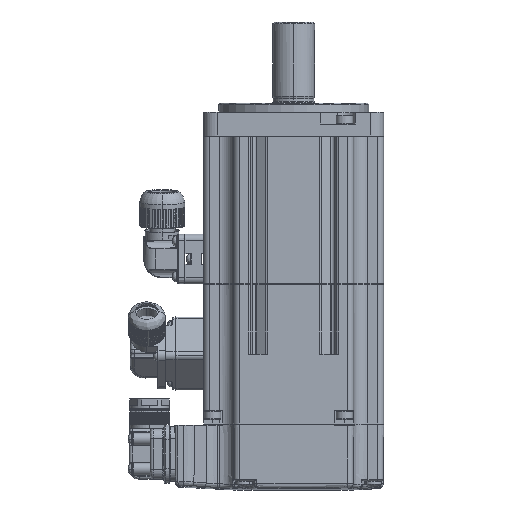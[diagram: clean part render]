
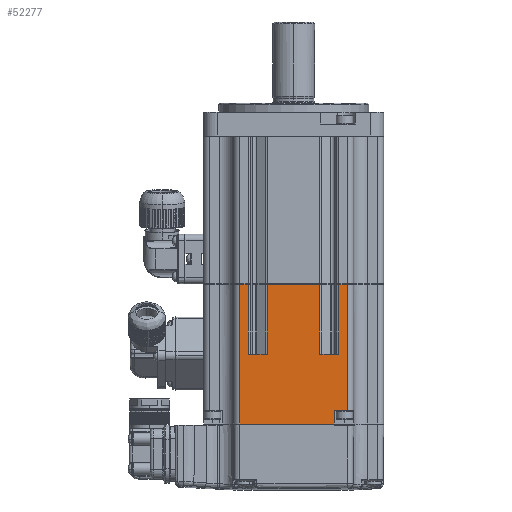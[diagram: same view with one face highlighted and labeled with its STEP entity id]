
A CAD part, front view. The second image highlights one B-rep face of the part: STEP entity #52277.
In plain terms, the highlighted planar face has unit normal (0, -1, 0).
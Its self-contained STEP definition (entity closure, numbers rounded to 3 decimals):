
#1121 = CARTESIAN_POINT ( 'NONE',  ( 0., -60., -99.5 ) ) ;
#5282 = VECTOR ( 'NONE', #67131, 1000. ) ;
#6009 = VECTOR ( 'NONE', #94617, 1000. ) ;
#9811 = VERTEX_POINT ( 'NONE', #28811 ) ;
#10400 = DIRECTION ( 'NONE',  ( 0., 0., 1. ) ) ;
#10500 = VERTEX_POINT ( 'NONE', #99790 ) ;
#11309 = CARTESIAN_POINT ( 'NONE',  ( 0., -60., -57.5 ) ) ;
#11530 = VERTEX_POINT ( 'NONE', #15528 ) ;
#12794 = ORIENTED_EDGE ( 'NONE', *, *, #71505, .T. ) ;
#13851 = DIRECTION ( 'NONE',  ( -1., 0., 0. ) ) ;
#14414 = CARTESIAN_POINT ( 'NONE',  ( -14.939, -60., -57.5 ) ) ;
#15206 = VERTEX_POINT ( 'NONE', #35851 ) ;
#15356 = EDGE_CURVE ( 'NONE', #11530, #83140, #84667, .T. ) ;
#15475 = VECTOR ( 'NONE', #39725, 1000. ) ;
#15528 = CARTESIAN_POINT ( 'NONE',  ( -12., -60., -99.5 ) ) ;
#15986 = EDGE_CURVE ( 'NONE', #41386, #27722, #36681, .T. ) ;
#16156 = LINE ( 'NONE', #26920, #96041 ) ;
#16171 = LINE ( 'NONE', #111912, #6009 ) ;
#18606 = DIRECTION ( 'NONE',  ( -1., 0., 0. ) ) ;
#19662 = CARTESIAN_POINT ( 'NONE',  ( -16.4, -60., -104. ) ) ;
#20411 = CARTESIAN_POINT ( 'NONE',  ( -45.061, -60., -57.5 ) ) ;
#21019 = VERTEX_POINT ( 'NONE', #20411 ) ;
#21680 = VECTOR ( 'NONE', #13851, 1000. ) ;
#22300 = EDGE_CURVE ( 'NONE', #15206, #9811, #113316, .T. ) ;
#24978 = ORIENTED_EDGE ( 'NONE', *, *, #22300, .F. ) ;
#25709 = LINE ( 'NONE', #57429, #21680 ) ;
#25718 = ORIENTED_EDGE ( 'NONE', *, *, #97540, .T. ) ;
#26232 = VECTOR ( 'NONE', #77673, 1000. ) ;
#26478 = LINE ( 'NONE', #58349, #5282 ) ;
#26920 = CARTESIAN_POINT ( 'NONE',  ( -48., -60., -101. ) ) ;
#27722 = VERTEX_POINT ( 'NONE', #75599 ) ;
#28455 = EDGE_CURVE ( 'NONE', #92862, #53676, #36233, .T. ) ;
#28800 = ORIENTED_EDGE ( 'NONE', *, *, #99502, .F. ) ;
#28811 = CARTESIAN_POINT ( 'NONE',  ( -48., -60., -104. ) ) ;
#32230 = ORIENTED_EDGE ( 'NONE', *, *, #15356, .F. ) ;
#33947 = ORIENTED_EDGE ( 'NONE', *, *, #76671, .T. ) ;
#35851 = CARTESIAN_POINT ( 'NONE',  ( -16.4, -60., -104. ) ) ;
#36058 = ORIENTED_EDGE ( 'NONE', *, *, #63503, .T. ) ;
#36233 = LINE ( 'NONE', #60838, #54073 ) ;
#36681 = LINE ( 'NONE', #54514, #105469 ) ;
#37809 = EDGE_LOOP ( 'NONE', ( #55624, #36058, #42484, #40936, #69731, #12794, #83373, #25718, #24978, #28800, #32230, #68911, #112772, #33947 ) ) ;
#38789 = DIRECTION ( 'NONE',  ( -1., 0., 0. ) ) ;
#39725 = DIRECTION ( 'NONE',  ( 0., 0., 1. ) ) ;
#40936 = ORIENTED_EDGE ( 'NONE', *, *, #100909, .T. ) ;
#41386 = VERTEX_POINT ( 'NONE', #42154 ) ;
#41517 = DIRECTION ( 'NONE',  ( 0., 0., -1. ) ) ;
#42050 = DIRECTION ( 'NONE',  ( -1., 0., 0. ) ) ;
#42100 = FACE_OUTER_BOUND ( 'NONE', #37809, .T. ) ;
#42154 = CARTESIAN_POINT ( 'NONE',  ( -21.248, -60., -80.75 ) ) ;
#42185 = CARTESIAN_POINT ( 'NONE',  ( 0., -60., -57.5 ) ) ;
#42484 = ORIENTED_EDGE ( 'NONE', *, *, #61357, .T. ) ;
#43637 = EDGE_CURVE ( 'NONE', #11530, #10500, #101046, .T. ) ;
#46876 = DIRECTION ( 'NONE',  ( 0., 0., 1. ) ) ;
#47122 = DIRECTION ( 'NONE',  ( 0., -1., 0. ) ) ;
#47232 = CARTESIAN_POINT ( 'NONE',  ( 0., -60., -98. ) ) ;
#50169 = PLANE ( 'NONE',  #50246 ) ;
#50246 = AXIS2_PLACEMENT_3D ( 'NONE', #47232, #47122, #46876 ) ;
#52277 = ADVANCED_FACE ( 'NONE', ( #42100 ), #50169, .T. ) ;
#53676 = VERTEX_POINT ( 'NONE', #68004 ) ;
#54073 = VECTOR ( 'NONE', #93093, 1000. ) ;
#54236 = EDGE_CURVE ( 'NONE', #10500, #80916, #73571, .T. ) ;
#54514 = CARTESIAN_POINT ( 'NONE',  ( -21.248, -60., -80.75 ) ) ;
#54605 = DIRECTION ( 'NONE',  ( 1., 0., 0. ) ) ;
#55624 = ORIENTED_EDGE ( 'NONE', *, *, #15986, .F. ) ;
#57271 = CARTESIAN_POINT ( 'NONE',  ( -45.061, -60., -80.75 ) ) ;
#57429 = CARTESIAN_POINT ( 'NONE',  ( 0., -60., -57.5 ) ) ;
#58349 = CARTESIAN_POINT ( 'NONE',  ( -21.248, -60., -57.5 ) ) ;
#59276 = LINE ( 'NONE', #68667, #26232 ) ;
#60838 = CARTESIAN_POINT ( 'NONE',  ( -45.061, -60., -80.75 ) ) ;
#61357 = EDGE_CURVE ( 'NONE', #70651, #97932, #25709, .T. ) ;
#63503 = EDGE_CURVE ( 'NONE', #41386, #70651, #26478, .T. ) ;
#64601 = VECTOR ( 'NONE', #41517, 1000. ) ;
#67131 = DIRECTION ( 'NONE',  ( 0., 0., 1. ) ) ;
#67339 = CARTESIAN_POINT ( 'NONE',  ( -38.752, -60., -97.5 ) ) ;
#68004 = CARTESIAN_POINT ( 'NONE',  ( -38.752, -60., -80.75 ) ) ;
#68667 = CARTESIAN_POINT ( 'NONE',  ( -16.4, -60., -98. ) ) ;
#68911 = ORIENTED_EDGE ( 'NONE', *, *, #43637, .T. ) ;
#69731 = ORIENTED_EDGE ( 'NONE', *, *, #28455, .F. ) ;
#70651 = VERTEX_POINT ( 'NONE', #83331 ) ;
#71505 = EDGE_CURVE ( 'NONE', #92862, #21019, #97062, .T. ) ;
#72883 = VECTOR ( 'NONE', #42050, 1000. ) ;
#73496 = VECTOR ( 'NONE', #18606, 1000. ) ;
#73571 = LINE ( 'NONE', #42185, #72883 ) ;
#75599 = CARTESIAN_POINT ( 'NONE',  ( -14.939, -60., -80.75 ) ) ;
#76671 = EDGE_CURVE ( 'NONE', #80916, #27722, #16171, .T. ) ;
#77673 = DIRECTION ( 'NONE',  ( 0., 0., -1. ) ) ;
#79471 = DIRECTION ( 'NONE',  ( 0., 0., -1. ) ) ;
#80916 = VERTEX_POINT ( 'NONE', #14414 ) ;
#81924 = DIRECTION ( 'NONE',  ( -1., 0., 0. ) ) ;
#83140 = VERTEX_POINT ( 'NONE', #85787 ) ;
#83331 = CARTESIAN_POINT ( 'NONE',  ( -21.248, -60., -57.5 ) ) ;
#83373 = ORIENTED_EDGE ( 'NONE', *, *, #101781, .T. ) ;
#84667 = LINE ( 'NONE', #1121, #85594 ) ;
#85594 = VECTOR ( 'NONE', #38789, 1000. ) ;
#85787 = CARTESIAN_POINT ( 'NONE',  ( -16.4, -60., -99.5 ) ) ;
#87822 = LINE ( 'NONE', #11309, #109105 ) ;
#92267 = CARTESIAN_POINT ( 'NONE',  ( -45.061, -60., -57.5 ) ) ;
#92274 = VECTOR ( 'NONE', #10400, 1000. ) ;
#92862 = VERTEX_POINT ( 'NONE', #57271 ) ;
#93093 = DIRECTION ( 'NONE',  ( 1., 0., 0. ) ) ;
#94445 = VERTEX_POINT ( 'NONE', #98259 ) ;
#94617 = DIRECTION ( 'NONE',  ( 0., 0., -1. ) ) ;
#96041 = VECTOR ( 'NONE', #79471, 1000. ) ;
#97062 = LINE ( 'NONE', #92267, #15475 ) ;
#97540 = EDGE_CURVE ( 'NONE', #94445, #9811, #16156, .T. ) ;
#97795 = CARTESIAN_POINT ( 'NONE',  ( -38.752, -60., -57.5 ) ) ;
#97932 = VERTEX_POINT ( 'NONE', #97795 ) ;
#98259 = CARTESIAN_POINT ( 'NONE',  ( -48., -60., -57.5 ) ) ;
#99502 = EDGE_CURVE ( 'NONE', #83140, #15206, #59276, .T. ) ;
#99790 = CARTESIAN_POINT ( 'NONE',  ( -12., -60., -57.5 ) ) ;
#100909 = EDGE_CURVE ( 'NONE', #97932, #53676, #111792, .T. ) ;
#101046 = LINE ( 'NONE', #111526, #92274 ) ;
#101781 = EDGE_CURVE ( 'NONE', #21019, #94445, #87822, .T. ) ;
#105469 = VECTOR ( 'NONE', #54605, 1000. ) ;
#109105 = VECTOR ( 'NONE', #81924, 1000. ) ;
#111526 = CARTESIAN_POINT ( 'NONE',  ( -12., -60., -98. ) ) ;
#111792 = LINE ( 'NONE', #67339, #64601 ) ;
#111912 = CARTESIAN_POINT ( 'NONE',  ( -14.939, -60., -97.5 ) ) ;
#112772 = ORIENTED_EDGE ( 'NONE', *, *, #54236, .T. ) ;
#113316 = LINE ( 'NONE', #19662, #73496 ) ;
